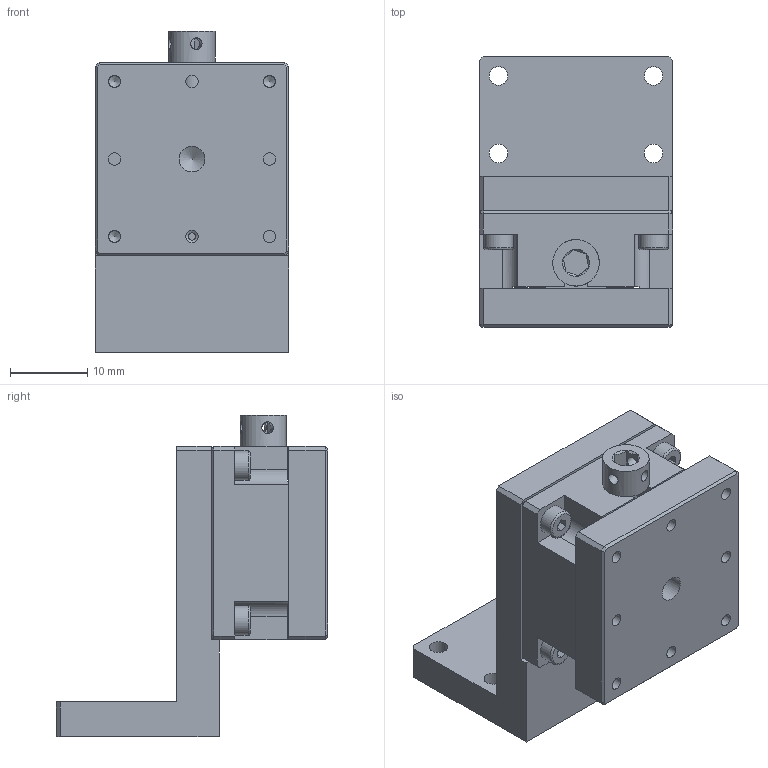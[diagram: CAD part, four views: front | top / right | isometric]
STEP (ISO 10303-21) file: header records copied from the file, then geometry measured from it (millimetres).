
FILE_DESCRIPTION (( 'STEP AP203' ), '1' );
FILE_NAME ('BKZ25.STEP', '2024-07-31T07:32:03', ( 'Windows User' ), ( 'P R C' ), 'SwSTEP 2.0', 'SolidWorks 2024', '' );
FILE_SCHEMA (( 'CONFIG_CONTROL_DESIGN' ));
Length unit declared in the file: millimetre
Products named in the file (1): BKZ25
Bounding box: 25 x 35 x 41.5 mm (x, y, z)
Volume: 14200.5 mm3; surface area: 9612.3 mm2
Topology: 7 solids, 7 shells, 228 faces, 572 edges, 364 vertices
Faces by surface type: plane 158, cylinder 53, cone 14, torus 3
Full cylindrical faces by diameter (mm): 1.5 x4, 1.6 x12, 2 x3, 2.05 x3, 2.4 x4, 2.5 x3, 3 x2, 3.3 x1, 3.5 x1, 3.8 x3, 4 x1, 4.5 x1, 6 x1
Entity records: 6707 total; most frequent: CARTESIAN_POINT 1350, DIRECTION 1069, ORIENTED_EDGE 998, EDGE_CURVE 499, AXIS2_PLACEMENT_3D 359, LINE 351, VECTOR 351, VERTEX_POINT 348
